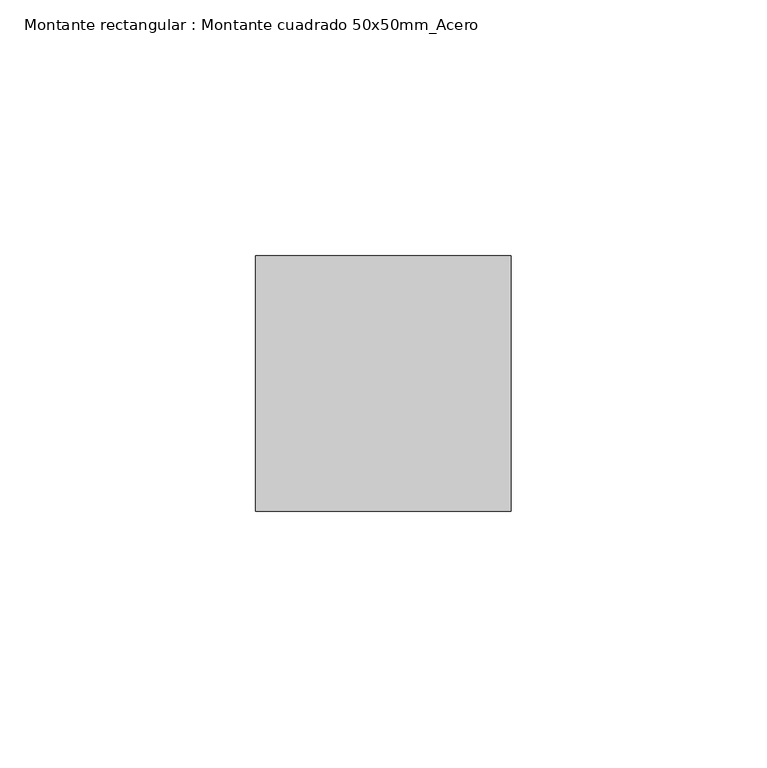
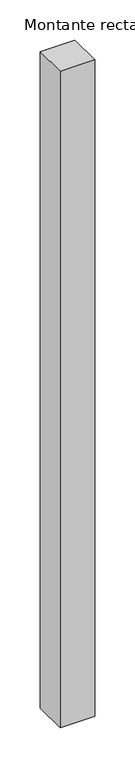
"""IFC4 building model written with IfcOpenShell, lengths in millimetres: member geometry, Montante rectangular : Montante cuadrado 50x50mm_Acero."""

from ifc_helpers import new_model, si_unit, frame, origin, place, context, project, spatial, polyline, outline, extrude, source, transform, mapped, element, save


def montante_rectangular_montante_cuadrado_50x50mm_acero_e79a9981(model_context):
    return source(origin(), model_context, "Body", "SweptSolid", [
        extrude(outline(polyline([(-50.0, 0.0), (0.0, 0.0), (0.0, -50.0), (-50.0, -50.0), (-50.0, 0.0)])), frame((0.0, 0.0, -1000.0), z_axis=(0.0, 0.0, 1.0), x_axis=(1.0, 0.0, 0.0)), (0.0, 0.0, 1.0), 1000.0),
    ])


if __name__ == "__main__":
    model = new_model("IFC4")
    model_context = context("Model", 3, world=origin())
    ifc_project = project(units=[si_unit("LENGTHUNIT", "METRE", prefix="MILLI")], contexts=[model_context])
    site = spatial("IfcSite", under=ifc_project)
    building = spatial("IfcBuilding", under=site)
    placement = place(None, origin())
    montante_rectangular_montante_cuadrado_50x50mm_acero_shape = montante_rectangular_montante_cuadrado_50x50mm_acero_e79a9981(model_context)
    element("IfcMember", 1, ObjectType="Montante rectangular : Montante cuadrado 50x50mm_Acero", at=placement, inside=building, context=model_context, shape_type="MappedRepresentation", body=[
        mapped(montante_rectangular_montante_cuadrado_50x50mm_acero_shape, transform((0.0, 0.0, 0.0), x_axis=(1.0, 0.0, 0.0), y_axis=(0.0, 1.0, 0.0), z_axis=(0.0, 0.0, 1.0))),
    ])
    save(model, "model.ifc")
